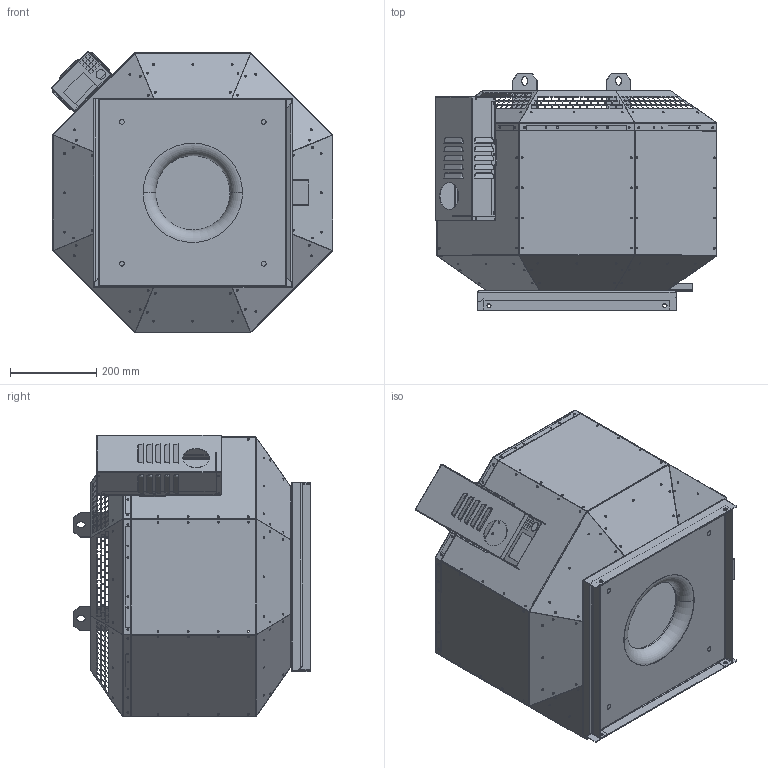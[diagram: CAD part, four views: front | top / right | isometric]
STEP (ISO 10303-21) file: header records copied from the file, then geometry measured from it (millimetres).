
FILE_DESCRIPTION (( 'STEP AP203' ), '1' );
FILE_NAME ('145036-01_DVNI280D230_step.step', '2018-08-10T09:05:33', ( '' ), ( '' ), 'SwSTEP 2.0', 'SolidWorks 2017', '' );
FILE_SCHEMA (( 'CONFIG_CONTROL_DESIGN' ));
Products named in the file (2): 145036-01_DVNI280D230_step
Bounding box: 654.75 x 550.51 x 654.75 mm (x, y, z)
Surface area: 3362841 mm2 (no closed solid volume)
Topology: 0 solids, 33 shells, 1669 faces, 8965 edges, 6682 vertices
Faces by surface type: plane 1242, cylinder 351, bspline 74, torus 2
Entity records: 107796 total; most frequent: CARTESIAN_POINT 37121, DIRECTION 13096, ORIENTED_EDGE 12646, EDGE_CURVE 8965, LINE 7090, VECTOR 7090, VERTEX_POINT 6682, EDGE_LOOP 3358
